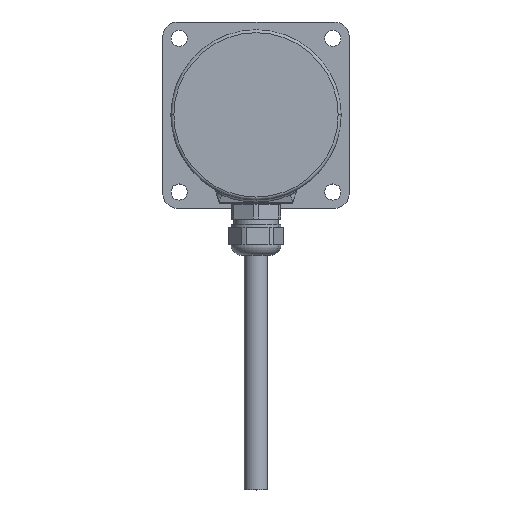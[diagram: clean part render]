
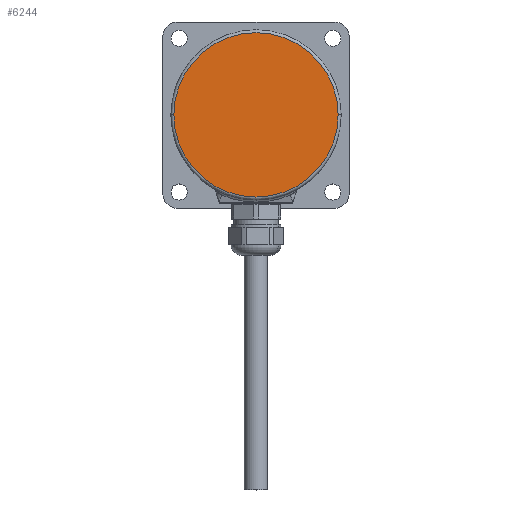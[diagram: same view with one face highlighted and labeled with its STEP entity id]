
A CAD part, top view. The second image highlights one B-rep face of the part: STEP entity #6244.
In plain terms, the highlighted planar face has unit normal (0, 0, 1).
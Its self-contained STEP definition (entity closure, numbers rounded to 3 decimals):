
#3448 = VERTEX_POINT ( 'NONE', #6305 ) ;
#3502 = EDGE_LOOP ( 'NONE', ( #6224, #6213 ) ) ;
#6201 = EDGE_CURVE ( 'NONE', #3448, #6256, #6683, .T. ) ;
#6213 = ORIENTED_EDGE ( 'NONE', *, *, #6201, .T. ) ;
#6224 = ORIENTED_EDGE ( 'NONE', *, *, #6262, .T. ) ;
#6244 = ADVANCED_FACE ( 'NONE', ( #6755 ), #6710, .F. ) ;
#6256 = VERTEX_POINT ( 'NONE', #6774 ) ;
#6262 = EDGE_CURVE ( 'NONE', #6256, #3448, #6726, .T. ) ;
#6305 = CARTESIAN_POINT ( 'NONE',  ( -28., 0., 89.55 ) ) ;
#6680 = DIRECTION ( 'NONE',  ( 0., 0., 1. ) ) ;
#6681 = CARTESIAN_POINT ( 'NONE',  ( 0., 0., 89.55 ) ) ;
#6682 = AXIS2_PLACEMENT_3D ( 'NONE', #6681, #6680, #6756 ) ;
#6683 = CIRCLE ( 'NONE', #6682, 28. ) ;
#6705 = DIRECTION ( 'NONE',  ( 1., 0., 0. ) ) ;
#6706 = DIRECTION ( 'NONE',  ( 0., 0., -1. ) ) ;
#6707 = CARTESIAN_POINT ( 'NONE',  ( 0., 0., 89.55 ) ) ;
#6709 = AXIS2_PLACEMENT_3D ( 'NONE', #6707, #6706, #6705 ) ;
#6710 = PLANE ( 'NONE',  #6709 ) ;
#6722 = DIRECTION ( 'NONE',  ( 1., 0., 0. ) ) ;
#6723 = DIRECTION ( 'NONE',  ( 0., 0., 1. ) ) ;
#6724 = CARTESIAN_POINT ( 'NONE',  ( 0., 0., 89.55 ) ) ;
#6725 = AXIS2_PLACEMENT_3D ( 'NONE', #6724, #6723, #6722 ) ;
#6726 = CIRCLE ( 'NONE', #6725, 28. ) ;
#6755 = FACE_OUTER_BOUND ( 'NONE', #3502, .T. ) ;
#6756 = DIRECTION ( 'NONE',  ( 1., 0., 0. ) ) ;
#6774 = CARTESIAN_POINT ( 'NONE',  ( 28., 0., 89.55 ) ) ;
